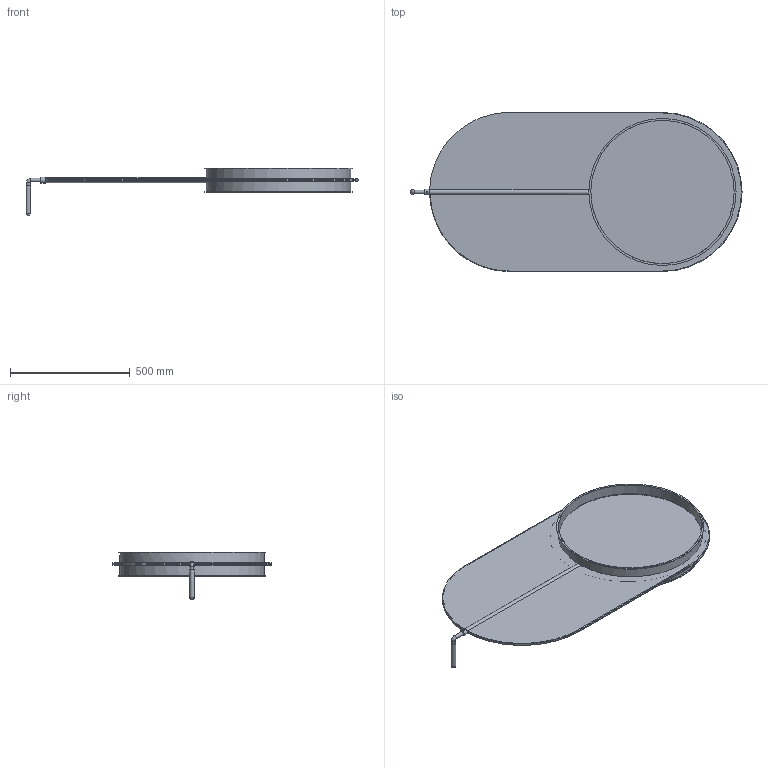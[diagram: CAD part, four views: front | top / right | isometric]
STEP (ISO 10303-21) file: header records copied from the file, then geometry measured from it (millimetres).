
FILE_DESCRIPTION((''),'2;1');
FILE_NAME('U:\Wolfgang\Marcel-3D\fertig\Kapitel 9\6021077.stp','2011-10-11T13:04:19',('iwienholt'),(''),'Autodesk Inventor 2010','Autodesk Inventor 2010','');
FILE_SCHEMA(('AUTOMOTIVE_DESIGN { 1 0 10303 214 1 1 1 1 }'));
Length unit declared in the file: millimetre
Products named in the file (3): 6021077; 6021077-1; Hebel-Ronde DN600
Assembly tree (2 placements, depth 2):
  6021077
    6021077-1
    Hebel-Ronde DN600
Bounding box: 1385.62 x 664 x 199.43 mm (x, y, z)
Volume: 3953290.7 mm3; surface area: 3103525.1 mm2
Topology: 2 solids, 2 shells, 49 faces, 125 edges, 80 vertices
Faces by surface type: cylinder 24, plane 19, torus 5, sphere 1
Full cylindrical faces by diameter (mm): 6.647 x1, 15 x2, 15.5 x1, 19 x1, 21 x1, 25 x1, 598 x2, 602 x2, 614 x2
Entity records: 1656 total; most frequent: CARTESIAN_POINT 499, DIRECTION 234, ORIENTED_EDGE 196, AXIS2_PLACEMENT_3D 100, EDGE_CURVE 98, EDGE_LOOP 72, VERTEX_POINT 70, FACE_OUTER_BOUND 49
